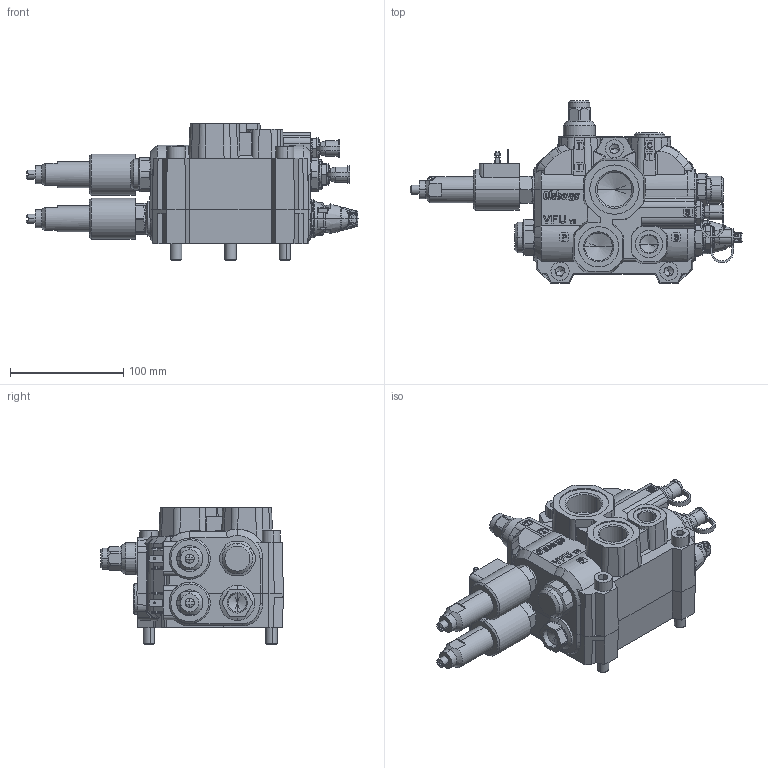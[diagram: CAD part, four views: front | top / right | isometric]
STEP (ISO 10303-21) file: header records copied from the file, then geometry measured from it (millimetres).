
FILE_DESCRIPTION (( 'STEP AP203' ), '1' );
FILE_NAME ('S-V3680.STEP', '2018-05-23T06:21:50', ( '' ), ( '' ), 'SwSTEP 2.0', 'SolidWorks 2018', '' );
FILE_SCHEMA (( 'CONFIG_CONTROL_DESIGN' ));
Products named in the file (1): S-V3680
Bounding box: 292.84 x 161.03 x 120.6 mm (x, y, z)
Surface area: 202655.8 mm2 (no closed solid volume)
Topology: 0 solids, 27 shells, 2625 faces, 6507 edges, 3949 vertices
Faces by surface type: plane 962, cylinder 644, bspline 565, cone 334, torus 94, sphere 26
Entity records: 101758 total; most frequent: CARTESIAN_POINT 45351, ORIENTED_EDGE 12674, DIRECTION 10273, EDGE_CURVE 6413, VERTEX_POINT 3949, AXIS2_PLACEMENT_3D 3737, VECTOR 2799, LINE 2799
